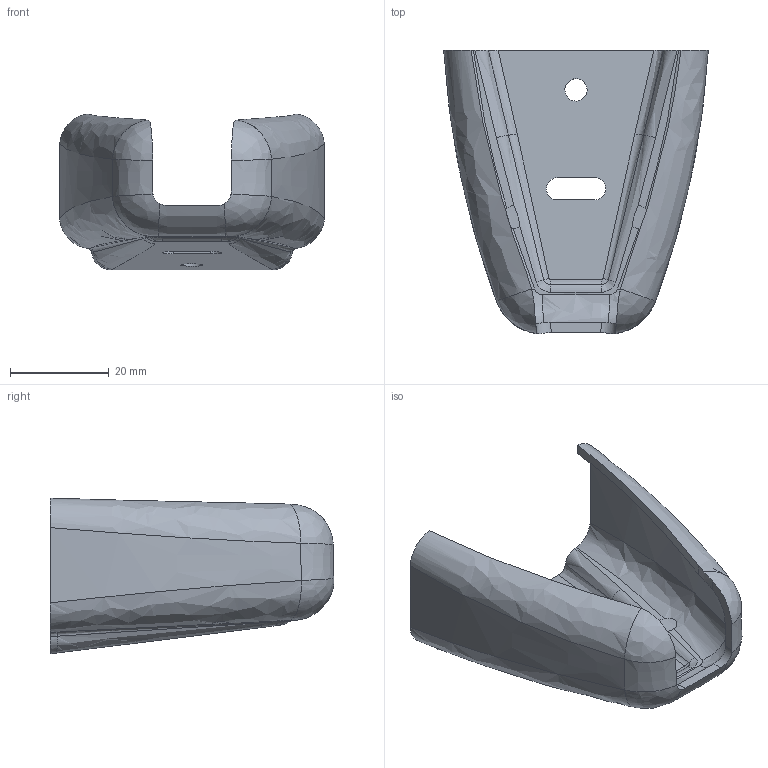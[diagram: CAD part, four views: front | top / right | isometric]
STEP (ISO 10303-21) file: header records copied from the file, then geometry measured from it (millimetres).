
FILE_DESCRIPTION (( 'STEP AP203' ), '1' );
FILE_NAME ('A-366-0-0.STEP', '2016-08-10T14:03:35', ( '' ), ( '' ), 'SwSTEP 2.0', 'SolidWorks 2015', '' );
FILE_SCHEMA (( 'CONFIG_CONTROL_DESIGN' ));
Length unit declared in the file: millimetre
Products named in the file (1): A-366-0-0
Bounding box: 53.49 x 57.35 x 31.46 mm (x, y, z)
Volume: 10462.6 mm3; surface area: 10963.4 mm2
Topology: 1 solids, 1 shells, 95 faces, 255 edges, 162 vertices
Faces by surface type: bspline 72, cylinder 15, plane 8
Entity records: 18789 total; most frequent: CARTESIAN_POINT 17002, ORIENTED_EDGE 510, EDGE_CURVE 255, B_SPLINE_CURVE_WITH_KNOTS 192, VERTEX_POINT 162, DIRECTION 119, EDGE_LOOP 99, FACE_OUTER_BOUND 95
